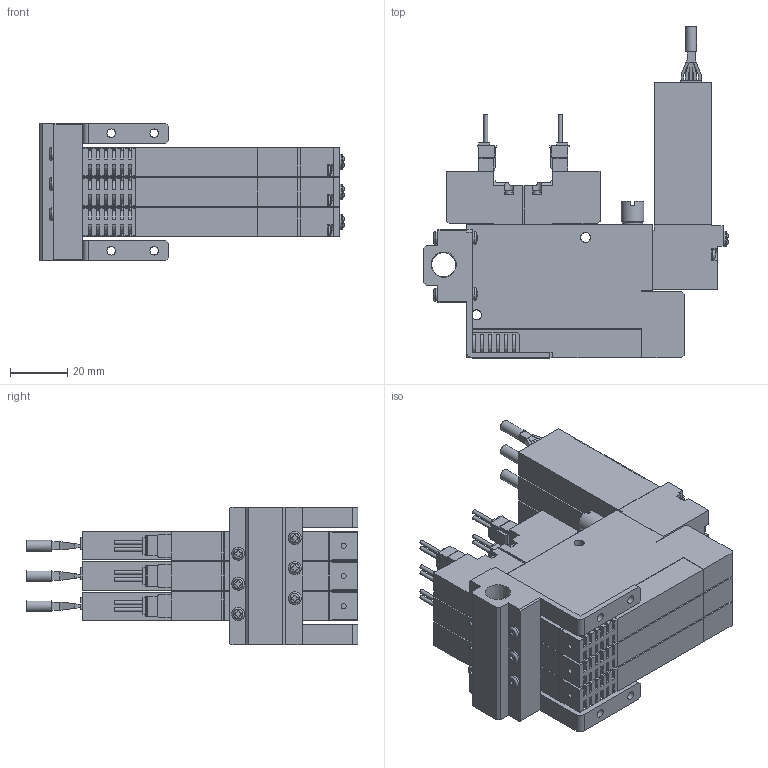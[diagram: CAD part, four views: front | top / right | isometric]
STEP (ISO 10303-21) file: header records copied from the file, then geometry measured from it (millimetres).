
FILE_DESCRIPTION(('STEP AP203'),'1');
FILE_NAME('5SS303_3D.stp','2024-09-04T09:42:36',(' '),(' '),'Spatial InterOp 3D',' ',' ');
FILE_SCHEMA(('CONFIG_CONTROL_DESIGN'));
Length unit declared in the file: millimetre
Products named in the file (5): BSC1M※※V9※5SS303; Solenoid valve S; Pressure Sensor V9; Unit-S; BaseMS30R
Assembly tree (10 placements, depth 2):
  BSC1M※※V9※5SS303
    Solenoid valve S  x3
    Pressure Sensor V9  x3
    Unit-S  x3
    BaseMS30R
Bounding box: 106.35 x 115.8 x 48 mm (x, y, z)
Volume: 178190.7 mm3; surface area: 71432.7 mm2
Topology: 10 solids, 10 shells, 1619 faces, 4446 edges, 2938 vertices
Faces by surface type: plane 1201, cylinder 363, sphere 19, torus 19, cone 17
Full cylindrical faces by diameter (mm): 1.4 x12, 1.8 x3, 2.5 x6, 3 x16, 3.5 x24, 3.8 x3, 4 x3, 4.134 x6, 4.5 x10, 5.5 x6, 7 x3, 7.7 x3, 8 x3, 8.422 x1
Entity records: 21326 total; most frequent: CARTESIAN_POINT 4545, ORIENTED_EDGE 3380, DIRECTION 3330, EDGE_CURVE 1690, LINE 1244, VECTOR 1244, VERTEX_POINT 1160, AXIS2_PLACEMENT_3D 1043
